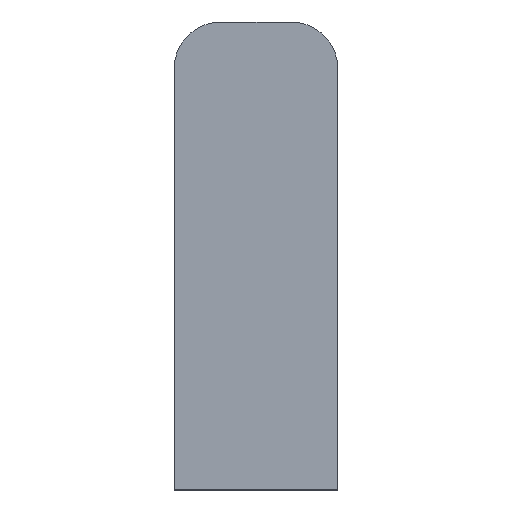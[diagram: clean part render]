
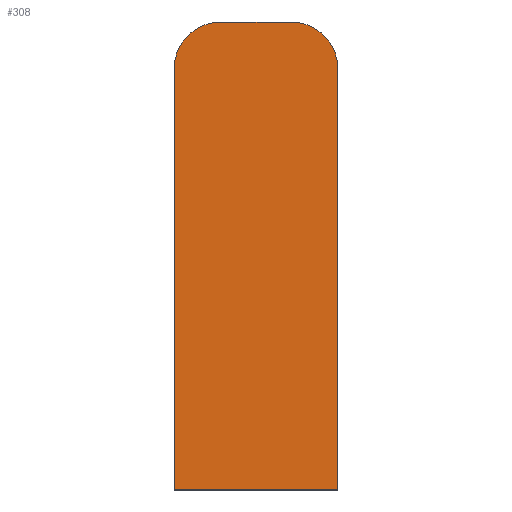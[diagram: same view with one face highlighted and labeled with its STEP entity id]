
A CAD part, front view. The second image highlights one B-rep face of the part: STEP entity #308.
In plain terms, the highlighted planar face has unit normal (0, -1, 0).
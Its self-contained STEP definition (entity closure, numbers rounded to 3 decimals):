
#12 = CARTESIAN_POINT ( 'NONE',  ( 0., 0., -1.5 ) ) ;
#13 = PLANE ( 'NONE',  #330 ) ;
#15 = DIRECTION ( 'NONE',  ( 0., 1., 0. ) ) ;
#16 = DIRECTION ( 'NONE',  ( -1., 0., 0. ) ) ;
#50 = CARTESIAN_POINT ( 'NONE',  ( 5.25, 0., -16.5 ) ) ;
#56 = DIRECTION ( 'NONE',  ( 1., 0., 0. ) ) ;
#57 = CARTESIAN_POINT ( 'NONE',  ( -2.25, 0., 10.5 ) ) ;
#58 = DIRECTION ( 'NONE',  ( 0., -1., 0. ) ) ;
#59 = DIRECTION ( 'NONE',  ( -1., 0., 0. ) ) ;
#70 = CARTESIAN_POINT ( 'NONE',  ( 2.25, 0., 10.5 ) ) ;
#72 = DIRECTION ( 'NONE',  ( 0., -1., 0. ) ) ;
#73 = DIRECTION ( 'NONE',  ( -1., 0., 0. ) ) ;
#97 = CARTESIAN_POINT ( 'NONE',  ( 5.25, 0., 10.5 ) ) ;
#100 = CARTESIAN_POINT ( 'NONE',  ( 2.25, 0., 13.5 ) ) ;
#101 = DIRECTION ( 'NONE',  ( -1., 0., 0. ) ) ;
#105 = CARTESIAN_POINT ( 'NONE',  ( -5.25, 0., -16.5 ) ) ;
#106 = DIRECTION ( 'NONE',  ( 0., 0., -1. ) ) ;
#107 = CARTESIAN_POINT ( 'NONE',  ( 5.25, 0., -16.5 ) ) ;
#108 = DIRECTION ( 'NONE',  ( 0., 0., 1. ) ) ;
#122 = CARTESIAN_POINT ( 'NONE',  ( -5.25, 0., -16.5 ) ) ;
#127 = CARTESIAN_POINT ( 'NONE',  ( -5.25, 0., 10.5 ) ) ;
#130 = CARTESIAN_POINT ( 'NONE',  ( -2.25, 0., 13.5 ) ) ;
#133 = CARTESIAN_POINT ( 'NONE',  ( 2.25, 0., 13.5 ) ) ;
#136 = CARTESIAN_POINT ( 'NONE',  ( 5.25, 0., -16.5 ) ) ;
#161 = FACE_OUTER_BOUND ( 'NONE', #381, .T. ) ;
#181 = VECTOR ( 'NONE', #56, 1000. ) ;
#183 = LINE ( 'NONE', #50, #181 ) ;
#187 = CIRCLE ( 'NONE', #344, 3. ) ;
#198 = CIRCLE ( 'NONE', #321, 3. ) ;
#206 = LINE ( 'NONE', #105, #216 ) ;
#211 = LINE ( 'NONE', #100, #214 ) ;
#214 = VECTOR ( 'NONE', #101, 1000. ) ;
#216 = VECTOR ( 'NONE', #106, 1000. ) ;
#219 = LINE ( 'NONE', #107, #220 ) ;
#220 = VECTOR ( 'NONE', #108, 1000. ) ;
#238 = ORIENTED_EDGE ( 'NONE', *, *, #331, .T. ) ;
#251 = ORIENTED_EDGE ( 'NONE', *, *, #364, .T. ) ;
#261 = ORIENTED_EDGE ( 'NONE', *, *, #341, .T. ) ;
#262 = ORIENTED_EDGE ( 'NONE', *, *, #367, .T. ) ;
#264 = ORIENTED_EDGE ( 'NONE', *, *, #332, .T. ) ;
#273 = ORIENTED_EDGE ( 'NONE', *, *, #366, .T. ) ;
#308 = ADVANCED_FACE ( 'NONE', ( #161 ), #13, .F. ) ;
#321 = AXIS2_PLACEMENT_3D ( 'NONE', #70, #72, #73 ) ;
#330 = AXIS2_PLACEMENT_3D ( 'NONE', #12, #15, #16 ) ;
#331 = EDGE_CURVE ( 'NONE', #391, #410, #183, .T. ) ;
#332 = EDGE_CURVE ( 'NONE', #404, #401, #187, .T. ) ;
#341 = EDGE_CURVE ( 'NONE', #392, #407, #198, .T. ) ;
#344 = AXIS2_PLACEMENT_3D ( 'NONE', #57, #58, #59 ) ;
#364 = EDGE_CURVE ( 'NONE', #407, #404, #211, .T. ) ;
#366 = EDGE_CURVE ( 'NONE', #401, #391, #206, .T. ) ;
#367 = EDGE_CURVE ( 'NONE', #410, #392, #219, .T. ) ;
#381 = EDGE_LOOP ( 'NONE', ( #262, #261, #251, #264, #273, #238 ) ) ;
#391 = VERTEX_POINT ( 'NONE', #122 ) ;
#392 = VERTEX_POINT ( 'NONE', #97 ) ;
#401 = VERTEX_POINT ( 'NONE', #127 ) ;
#404 = VERTEX_POINT ( 'NONE', #130 ) ;
#407 = VERTEX_POINT ( 'NONE', #133 ) ;
#410 = VERTEX_POINT ( 'NONE', #136 ) ;
